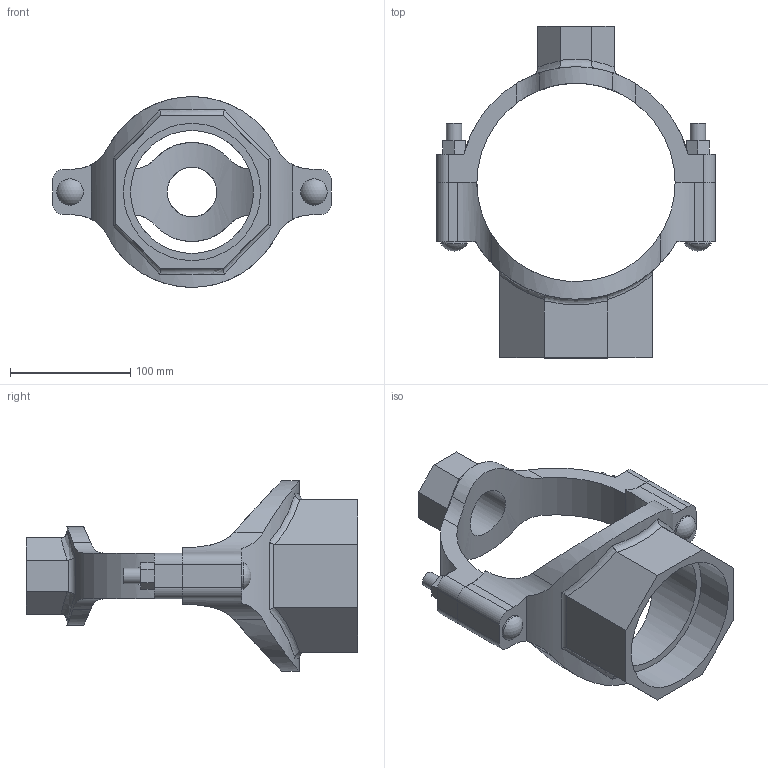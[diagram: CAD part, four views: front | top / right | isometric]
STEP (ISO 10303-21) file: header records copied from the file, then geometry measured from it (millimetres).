
FILE_DESCRIPTION(/* description */ ('VIC MECH-T BRANCH OUTLET CROSS STYLE 920N (THD)','CAx-IF Rec.Pracs.---Representation and Presentation of Product Manufacturing Information (PMI)---4.0---2014-10-13'),/* implementation_level */ '2;1');
FILE_NAME(/* name */ 'C:\Users\Vjadhav\AppData\Roaming\Autodesk\ApplicationPlugins\Back Up\Victaulic_IPS_Mechanical-Cross Outlet_Style 920N (FPT)\Victaulic_IPS_Mechanical-Cross Outlet_06.0 (165.1)x01.5x04.0 (150x40x100).stp',/* time_stamp */ '2020-08-06T19:00:06+06:00',/* author */ ('Vjadhav'),/* organization */ ('Victaulic'),/* preprocessor_version */ 'ST-DEVELOPER v17.2',/* originating_system */ 'Autodesk Inventor 2019',/* authorisation */ '');
FILE_SCHEMA (('AP242_MANAGED_MODEL_BASED_3D_ENGINEERING_MIM_LF { 1 0 10303 442 1 1 4 }'));
Length unit declared in the file: inch
Products named in the file (3): 920NT-06.0 (165.1)x01.5x04.0; 920NT-06.0 (165.1)x01.5x02.5 (76.1); 920T-06.0 (165.1)x04.0
Assembly tree (2 placements, depth 2):
  920NT-06.0 (165.1)x01.5x04.0
    920NT-06.0 (165.1)x01.5x02.5 (76.1)
    920T-06.0 (165.1)x04.0
Bounding box: 231.9 x 276.35 x 158.7 mm (x, y, z)
Volume: 840586.3 mm3; surface area: 173944.4 mm2
Topology: 2 solids, 2 shells, 130 faces, 344 edges, 232 vertices
Faces by surface type: plane 68, cylinder 48, bspline 8, torus 4, sphere 2
Full cylindrical faces by diameter (mm): 12.7 x4, 21.982 x2, 41.275 x1, 48.26 x1, 102.394 x1, 114.3 x1
Entity records: 5152 total; most frequent: CARTESIAN_POINT 1693, ORIENTED_EDGE 688, DIRECTION 638, EDGE_CURVE 344, VERTEX_POINT 232, AXIS2_PLACEMENT_3D 227, LINE 184, VECTOR 184
